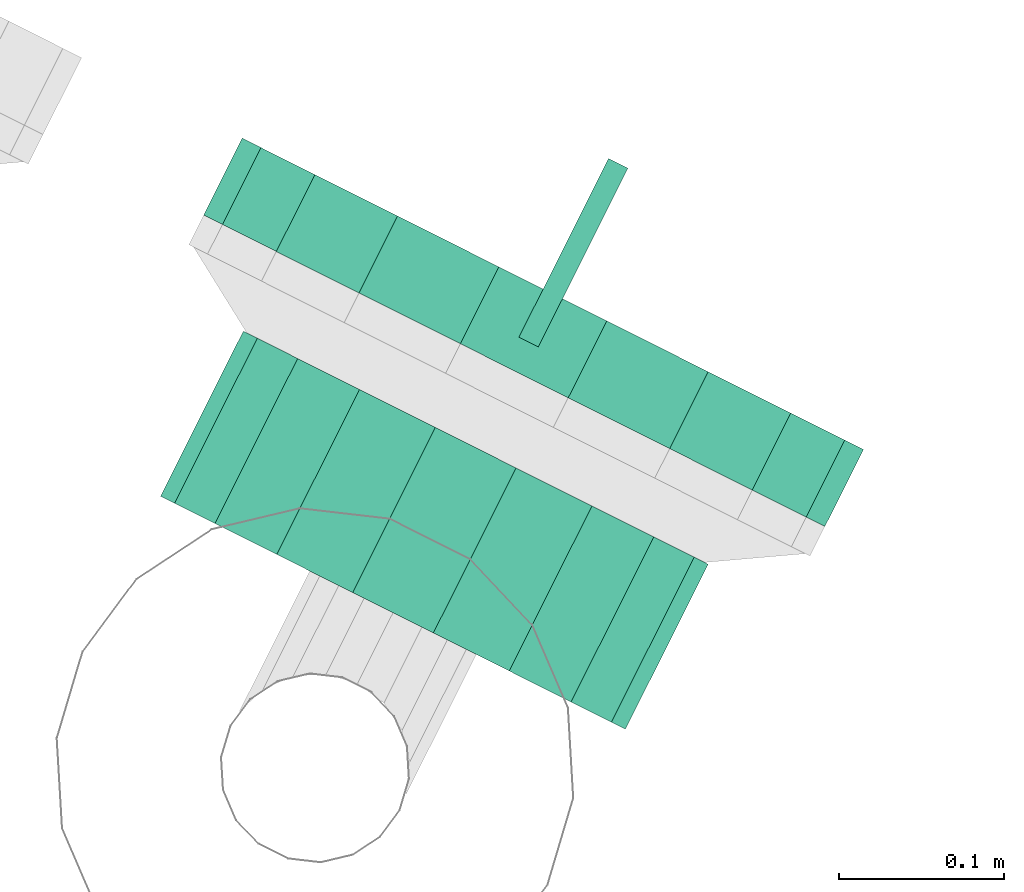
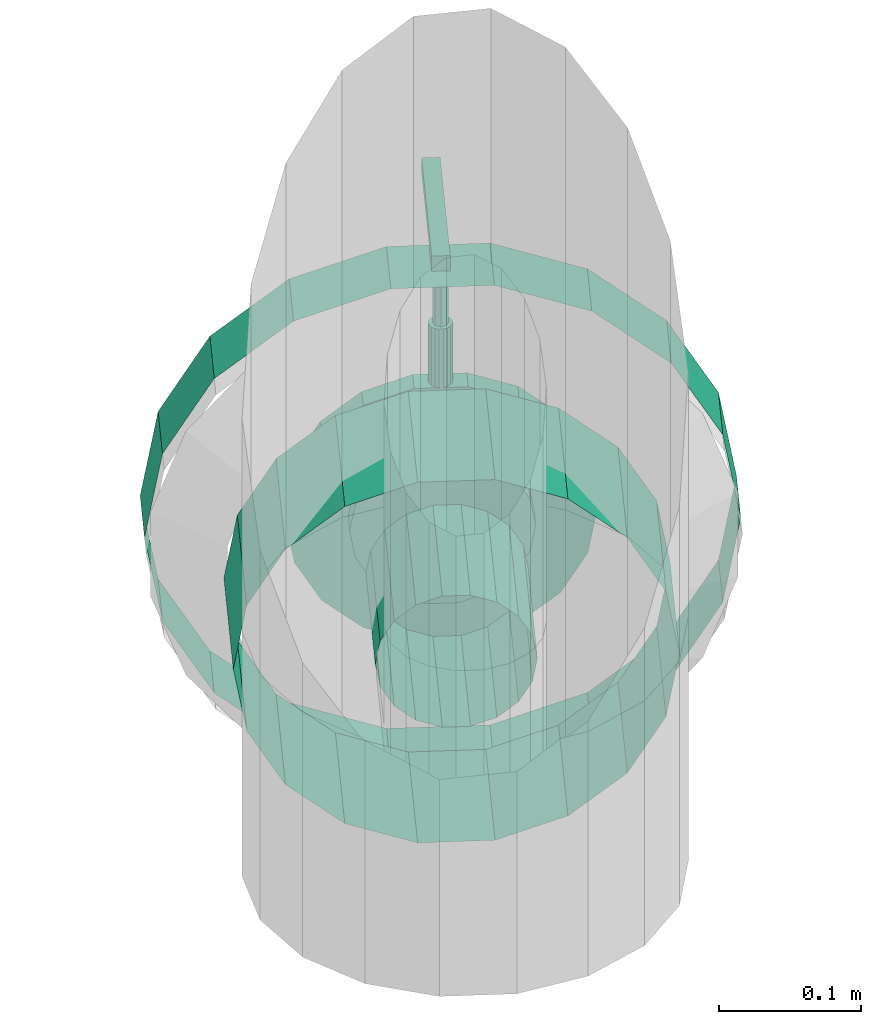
# One storey, part 40 of 206: 1 flow controller, 1 flow segment.
"""IFC2X3 building model written with IfcOpenShell, lengths in metres."""

from ifc_helpers import new_model, si_unit, derived_unit, direction, frame, origin, place, context, subcontext, project, spatial, face_set, surface_model, source, transform, mapped, material, type_object, type_shapes, element, save


model = new_model("IFC2X3")

# Units and contexts
model_context = context("Model", 3, precision=5.2338327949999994e-05, world=origin(), true_north=direction((0.0, 1.0)))
body_context = subcontext(model_context, "Body", "Model", "MODEL_VIEW")
ifc_project = project(units=[si_unit("LENGTHUNIT", "METRE"), si_unit("AREAUNIT", "SQUARE_METRE"), si_unit("VOLUMEUNIT", "CUBIC_METRE"), si_unit("MASSUNIT", "GRAM", prefix="KILO"), si_unit("PLANEANGLEUNIT", "RADIAN"), derived_unit("THERMALTRANSMITTANCEUNIT", [(si_unit("MASSUNIT", "GRAM", prefix="KILO"), 1), (si_unit("THERMODYNAMICTEMPERATUREUNIT", "KELVIN"), -1), (si_unit("TIMEUNIT", "SECOND"), -3)])], contexts=[model_context])

# Site, building, storey
site_placement = place(None, frame((0.0, 0.0, 0.0), z_axis=(0.0, 0.0, 1.0), x_axis=(0.8939966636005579, -0.4480736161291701, 0.0)))
site = spatial("IfcSite", under=ifc_project, at=site_placement, Name="Default", CompositionType="ELEMENT")
building_placement = place(site_placement, origin())
building = spatial("IfcBuilding", under=site, at=building_placement, CompositionType="ELEMENT")
storey_placement = place(building_placement, origin())
storey = spatial("IfcBuildingStorey", under=building, at=storey_placement, Name="Erdgeschoss", CompositionType="ELEMENT", Elevation=0.0)

# Flow controller
ifc_material = material(Name="IfcSurfaceStyle #1741")
distribution_element_type_1 = type_object("IfcDistributionElementType", Name="Zwischenflanschklappe 351737:Zwischenflanschklappe 351737", material=ifc_material)
shared_shape_1 = source(origin(), body_context, "Body", "SurfaceModel", [
    surface_model("IfcFaceBasedSurfaceModel", [(25.630849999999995, 1.0211727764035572, 1.2613106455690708), (25.630849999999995, 0.9003227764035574, 1.2613106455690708), (25.617749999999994, 0.9003227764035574, 1.2613106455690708), (25.617749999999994, 1.0211727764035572, 1.2613106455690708), (25.617749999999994, 0.9003227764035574, 1.2744106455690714), (25.617749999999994, 1.0211727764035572, 1.2744106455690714), (25.630849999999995, 0.9003227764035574, 1.2744106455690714), (25.630849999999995, 1.0211727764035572, 1.2744106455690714), (25.558799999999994, 0.932872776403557, 1.0544106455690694), (25.56275013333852, 0.932872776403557, 1.032008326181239), (25.56275013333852, 0.9155394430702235, 1.032008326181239), (25.558799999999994, 0.9155394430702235, 1.0544106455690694), (25.574124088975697, 0.932872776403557, 1.0123080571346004), (25.574124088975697, 0.9155394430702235, 1.0123080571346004), (25.59154999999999, 0.932872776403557, 0.99768598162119), (25.59154999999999, 0.9155394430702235, 0.99768598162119), (25.61292604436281, 0.932872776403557, 0.9899057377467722), (25.61292604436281, 0.9155394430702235, 0.9899057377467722), (25.63567395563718, 0.932872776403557, 0.9899057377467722), (25.63567395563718, 0.9155394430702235, 0.9899057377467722), (25.657049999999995, 0.932872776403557, 0.9976859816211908), (25.657049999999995, 0.9155394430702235, 0.9976859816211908), (25.674475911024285, 0.932872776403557, 1.0123080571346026), (25.674475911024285, 0.9155394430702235, 1.0123080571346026), (25.685849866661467, 0.932872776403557, 1.032008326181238), (25.685849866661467, 0.9155394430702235, 1.032008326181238), (25.689799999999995, 0.932872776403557, 1.0544106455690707), (25.689799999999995, 0.9155394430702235, 1.0544106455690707), (25.685849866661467, 0.932872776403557, 1.076812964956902), (25.685849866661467, 0.9155394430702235, 1.076812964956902), (25.674475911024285, 0.932872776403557, 1.096513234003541), (25.674475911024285, 0.9155394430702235, 1.096513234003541), (25.657049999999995, 0.932872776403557, 1.1111353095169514), (25.657049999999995, 0.9155394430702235, 1.1111353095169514), (25.63567395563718, 0.932872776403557, 1.1189155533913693), (25.63567395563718, 0.9155394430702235, 1.1189155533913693), (25.61292604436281, 0.932872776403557, 1.1189155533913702), (25.61292604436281, 0.9155394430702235, 1.1189155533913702), (25.59154999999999, 0.932872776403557, 1.1111353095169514), (25.59154999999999, 0.9155394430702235, 1.1111353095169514), (25.574124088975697, 0.932872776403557, 1.0965132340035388), (25.574124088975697, 0.9155394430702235, 1.0965132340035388), (25.56275013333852, 0.932872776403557, 1.076812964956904), (25.56275013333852, 0.9155394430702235, 1.076812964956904), (25.62429999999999, 0.9328727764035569, 1.0544106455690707), (25.62429999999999, 0.9155394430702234, 1.0544106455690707), (25.514299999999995, 0.9155394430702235, 1.0544106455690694), (25.520933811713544, 0.9155394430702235, 1.0167884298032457), (25.520933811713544, 0.8982061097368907, 1.0167884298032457), (25.514299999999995, 0.8982061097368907, 1.0544106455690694), (25.540035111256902, 0.9155394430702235, 0.9837040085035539), (25.540035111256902, 0.8982061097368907, 0.9837040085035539), (25.56929999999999, 0.9155394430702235, 0.9591478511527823), (25.56929999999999, 0.8982061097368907, 0.9591478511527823), (25.60519870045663, 0.9155394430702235, 0.9460817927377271), (25.60519870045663, 0.8982061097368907, 0.9460817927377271), (25.643401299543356, 0.9155394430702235, 0.946081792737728), (25.643401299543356, 0.8982061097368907, 0.946081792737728), (25.679299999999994, 0.9155394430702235, 0.9591478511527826), (25.679299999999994, 0.8982061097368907, 0.9591478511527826), (25.70856488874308, 0.9155394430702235, 0.9837040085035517), (25.70856488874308, 0.8982061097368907, 0.9837040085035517), (25.727666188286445, 0.9155394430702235, 1.016788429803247), (25.727666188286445, 0.8982061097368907, 1.016788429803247), (25.734299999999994, 0.9155394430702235, 1.0544106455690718), (25.734299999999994, 0.8982061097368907, 1.0544106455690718), (25.727666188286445, 0.9155394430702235, 1.092032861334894), (25.727666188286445, 0.8982061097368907, 1.092032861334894), (25.70856488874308, 0.9155394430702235, 1.1251172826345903), (25.70856488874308, 0.8982061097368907, 1.1251172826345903), (25.679299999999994, 0.9155394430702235, 1.14967343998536), (25.679299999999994, 0.8982061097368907, 1.14967343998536), (25.643401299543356, 0.9155394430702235, 1.1627394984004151), (25.643401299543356, 0.8982061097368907, 1.1627394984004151), (25.60519870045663, 0.9155394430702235, 1.1627394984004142), (25.60519870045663, 0.8982061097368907, 1.1627394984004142), (25.56929999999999, 0.9155394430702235, 1.1496734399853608), (25.56929999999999, 0.8982061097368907, 1.1496734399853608), (25.540035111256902, 0.9155394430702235, 1.1251172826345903), (25.540035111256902, 0.8982061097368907, 1.1251172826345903), (25.520933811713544, 0.9155394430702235, 1.092032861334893), (25.520933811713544, 0.8982061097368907, 1.092032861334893), (25.62429999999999, 0.8982061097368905, 1.0544106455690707), (25.558799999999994, 0.8982061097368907, 1.0544106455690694), (25.56275013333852, 0.8982061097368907, 1.032008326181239), (25.56275013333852, 0.8808727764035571, 1.032008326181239), (25.558799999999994, 0.8808727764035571, 1.0544106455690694), (25.574124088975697, 0.8982061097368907, 1.0123080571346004), (25.574124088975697, 0.8808727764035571, 1.0123080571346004), (25.59154999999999, 0.8982061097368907, 0.99768598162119), (25.59154999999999, 0.8808727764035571, 0.99768598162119), (25.61292604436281, 0.8982061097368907, 0.9899057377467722), (25.61292604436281, 0.8808727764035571, 0.9899057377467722), (25.63567395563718, 0.8982061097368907, 0.9899057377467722), (25.63567395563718, 0.8808727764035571, 0.9899057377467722), (25.657049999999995, 0.8982061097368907, 0.9976859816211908), (25.657049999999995, 0.8808727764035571, 0.9976859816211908), (25.674475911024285, 0.8982061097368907, 1.0123080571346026), (25.674475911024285, 0.8808727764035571, 1.0123080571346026), (25.685849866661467, 0.8982061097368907, 1.032008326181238), (25.685849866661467, 0.8808727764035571, 1.032008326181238), (25.689799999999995, 0.8982061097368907, 1.0544106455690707), (25.689799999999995, 0.8808727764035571, 1.0544106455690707), (25.685849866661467, 0.8982061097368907, 1.076812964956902), (25.685849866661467, 0.8808727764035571, 1.076812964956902), (25.674475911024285, 0.8982061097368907, 1.096513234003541), (25.674475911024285, 0.8808727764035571, 1.096513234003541), (25.657049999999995, 0.8982061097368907, 1.1111353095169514), (25.657049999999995, 0.8808727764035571, 1.1111353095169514), (25.63567395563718, 0.8982061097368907, 1.1189155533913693), (25.63567395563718, 0.8808727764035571, 1.1189155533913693), (25.61292604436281, 0.8982061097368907, 1.1189155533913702), (25.61292604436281, 0.8808727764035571, 1.1189155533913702), (25.59154999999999, 0.8982061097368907, 1.1111353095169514), (25.59154999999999, 0.8808727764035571, 1.1111353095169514), (25.574124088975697, 0.8982061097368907, 1.0965132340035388), (25.574124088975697, 0.8808727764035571, 1.0965132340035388), (25.56275013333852, 0.8982061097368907, 1.076812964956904), (25.56275013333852, 0.8808727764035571, 1.076812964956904), (25.62429999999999, 0.880872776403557, 1.0544106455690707), (25.615633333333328, 0.9068727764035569, 1.0544106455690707), (25.616155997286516, 0.9039086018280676, 1.0544106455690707), (25.616155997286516, 0.9039086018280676, 1.212860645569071), (25.615633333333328, 0.9068727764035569, 1.212860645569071), (25.61766094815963, 0.90130195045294, 1.0544106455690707), (25.61766094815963, 0.90130195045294, 1.212860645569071), (25.61996666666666, 0.8993672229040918, 1.0544106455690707), (25.61996666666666, 0.8993672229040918, 1.212860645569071), (25.622795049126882, 0.898337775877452, 1.0544106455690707), (25.622795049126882, 0.898337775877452, 1.212860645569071), (25.625804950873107, 0.8983377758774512, 1.0544106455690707), (25.625804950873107, 0.8983377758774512, 1.212860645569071), (25.628633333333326, 0.8993672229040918, 1.0544106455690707), (25.628633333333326, 0.8993672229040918, 1.212860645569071), (25.630939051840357, 0.9013019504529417, 1.0544106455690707), (25.630939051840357, 0.9013019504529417, 1.212860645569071), (25.63244400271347, 0.9039086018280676, 1.0544106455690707), (25.63244400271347, 0.9039086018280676, 1.212860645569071), (25.63296666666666, 0.9068727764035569, 1.0544106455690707), (25.63296666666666, 0.9068727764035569, 1.212860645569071), (25.63244400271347, 0.9098369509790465, 1.0544106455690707), (25.63244400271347, 0.9098369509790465, 1.212860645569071), (25.630939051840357, 0.9124436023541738, 1.0544106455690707), (25.630939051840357, 0.9124436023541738, 1.212860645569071), (25.628633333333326, 0.9143783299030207, 1.0544106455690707), (25.628633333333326, 0.9143783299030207, 1.212860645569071), (25.625804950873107, 0.9154077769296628, 1.0544106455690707), (25.625804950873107, 0.9154077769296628, 1.212860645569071), (25.622795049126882, 0.9154077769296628, 1.0544106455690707), (25.622795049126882, 0.9154077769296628, 1.212860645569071), (25.61996666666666, 0.9143783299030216, 1.0544106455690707), (25.61996666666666, 0.9143783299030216, 1.212860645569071), (25.61766094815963, 0.9124436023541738, 1.0544106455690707), (25.61766094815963, 0.9124436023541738, 1.212860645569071), (25.616155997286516, 0.9098369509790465, 1.0544106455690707), (25.616155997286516, 0.9098369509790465, 1.212860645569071), (25.62429999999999, 0.9068727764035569, 1.0544106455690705), (25.62429999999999, 0.9068727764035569, 1.212860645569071), (25.618584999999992, 0.9068727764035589, 1.212860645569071), (25.620258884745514, 0.9028316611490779, 1.212860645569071), (25.620258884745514, 0.9028316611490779, 1.2613106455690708), (25.618584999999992, 0.9068727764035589, 1.2613106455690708), (25.62429999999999, 0.901157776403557, 1.212860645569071), (25.62429999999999, 0.901157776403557, 1.2613106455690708), (25.628341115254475, 0.9028316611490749, 1.212860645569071), (25.628341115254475, 0.9028316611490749, 1.2613106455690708), (25.63001499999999, 0.9068727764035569, 1.212860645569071), (25.63001499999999, 0.9068727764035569, 1.2613106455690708), (25.628341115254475, 0.9109138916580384, 1.212860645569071), (25.628341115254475, 0.9109138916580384, 1.2613106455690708), (25.62429999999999, 0.9125877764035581, 1.212860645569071), (25.62429999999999, 0.9125877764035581, 1.2613106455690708), (25.620258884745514, 0.9109138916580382, 1.212860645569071), (25.620258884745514, 0.9109138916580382, 1.2613106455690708), (25.62429999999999, 0.9068727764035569, 1.2613106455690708), (25.414299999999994, 0.932872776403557, 1.0544106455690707), (25.426964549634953, 0.932872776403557, 0.9825864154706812), (25.426964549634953, 0.8808727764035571, 0.9825864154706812), (25.414299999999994, 0.8808727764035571, 1.0544106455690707), (25.46343066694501, 0.932872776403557, 0.9194252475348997), (25.46343066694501, 0.8808727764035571, 0.9194252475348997), (25.519299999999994, 0.932872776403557, 0.8725453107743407), (25.519299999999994, 0.8808727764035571, 0.8725453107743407), (25.587833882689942, 0.932872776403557, 0.8476010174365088), (25.587833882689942, 0.8808727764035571, 0.8476010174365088), (25.66076611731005, 0.932872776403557, 0.8476010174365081), (25.66076611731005, 0.8808727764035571, 0.8476010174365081), (25.729299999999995, 0.932872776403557, 0.872545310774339), (25.729299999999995, 0.8808727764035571, 0.872545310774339), (25.785169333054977, 0.932872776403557, 0.9194252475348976), (25.785169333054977, 0.8808727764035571, 0.9194252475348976), (25.821635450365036, 0.932872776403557, 0.9825864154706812), (25.821635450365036, 0.8808727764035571, 0.9825864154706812), (25.834299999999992, 0.932872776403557, 1.0544106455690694), (25.834299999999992, 0.8808727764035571, 1.0544106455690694), (25.821635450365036, 0.932872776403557, 1.1262348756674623), (25.821635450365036, 0.8808727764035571, 1.1262348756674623), (25.785169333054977, 0.932872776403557, 1.1893960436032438), (25.785169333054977, 0.8808727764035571, 1.1893960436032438), (25.729299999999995, 0.932872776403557, 1.236275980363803), (25.729299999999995, 0.8808727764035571, 1.236275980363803), (25.66076611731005, 0.932872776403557, 1.2612202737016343), (25.66076611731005, 0.8808727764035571, 1.2612202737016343), (25.58783388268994, 0.932872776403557, 1.2612202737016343), (25.58783388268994, 0.8808727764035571, 1.2612202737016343), (25.519299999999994, 0.932872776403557, 1.236275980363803), (25.519299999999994, 0.8808727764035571, 1.236275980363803), (25.46343066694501, 0.932872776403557, 1.1893960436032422), (25.46343066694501, 0.8808727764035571, 1.1893960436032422), (25.426964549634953, 0.932872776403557, 1.126234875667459), (25.426964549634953, 0.8808727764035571, 1.126234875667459)], [face_set([[[0, 1, 2, 3]], [[3, 2, 4, 5]], [[5, 4, 6, 7]], [[7, 6, 1, 0]], [[0, 3, 5, 7]], [[6, 4, 2, 1]], [[8, 9, 10, 11]], [[9, 12, 13, 10]], [[12, 14, 15, 13]], [[14, 16, 17, 15]], [[16, 18, 19, 17]], [[18, 20, 21, 19]], [[20, 22, 23, 21]], [[22, 24, 25, 23]], [[24, 26, 27, 25]], [[26, 28, 29, 27]], [[28, 30, 31, 29]], [[30, 32, 33, 31]], [[32, 34, 35, 33]], [[34, 36, 37, 35]], [[36, 38, 39, 37]], [[38, 40, 41, 39]], [[40, 42, 43, 41]], [[42, 8, 11, 43]], [[44, 9, 8]], [[44, 12, 9]], [[44, 14, 12]], [[44, 16, 14]], [[44, 18, 16]], [[44, 20, 18]], [[44, 22, 20]], [[44, 24, 22]], [[44, 26, 24]], [[44, 28, 26]], [[44, 30, 28]], [[44, 32, 30]], [[44, 34, 32]], [[44, 36, 34]], [[44, 38, 36]], [[44, 40, 38]], [[44, 42, 40]], [[44, 8, 42]], [[45, 43, 11]], [[45, 41, 43]], [[45, 39, 41]], [[45, 37, 39]], [[45, 35, 37]], [[45, 33, 35]], [[45, 31, 33]], [[45, 29, 31]], [[45, 27, 29]], [[45, 25, 27]], [[45, 23, 25]], [[45, 21, 23]], [[45, 19, 21]], [[45, 17, 19]], [[45, 15, 17]], [[45, 13, 15]], [[45, 10, 13]], [[45, 11, 10]], [[46, 47, 48, 49]], [[47, 50, 51, 48]], [[50, 52, 53, 51]], [[52, 54, 55, 53]], [[54, 56, 57, 55]], [[56, 58, 59, 57]], [[58, 60, 61, 59]], [[60, 62, 63, 61]], [[62, 64, 65, 63]], [[64, 66, 67, 65]], [[66, 68, 69, 67]], [[68, 70, 71, 69]], [[70, 72, 73, 71]], [[72, 74, 75, 73]], [[74, 76, 77, 75]], [[76, 78, 79, 77]], [[78, 80, 81, 79]], [[80, 46, 49, 81]], [[45, 47, 46]], [[45, 50, 47]], [[45, 52, 50]], [[45, 54, 52]], [[45, 56, 54]], [[45, 58, 56]], [[45, 60, 58]], [[45, 62, 60]], [[45, 64, 62]], [[45, 66, 64]], [[45, 68, 66]], [[45, 70, 68]], [[45, 72, 70]], [[45, 74, 72]], [[45, 76, 74]], [[45, 78, 76]], [[45, 80, 78]], [[45, 46, 80]], [[82, 81, 49]], [[82, 79, 81]], [[82, 77, 79]], [[82, 75, 77]], [[82, 73, 75]], [[82, 71, 73]], [[82, 69, 71]], [[82, 67, 69]], [[82, 65, 67]], [[82, 63, 65]], [[82, 61, 63]], [[82, 59, 61]], [[82, 57, 59]], [[82, 55, 57]], [[82, 53, 55]], [[82, 51, 53]], [[82, 48, 51]], [[82, 49, 48]], [[83, 84, 85, 86]], [[84, 87, 88, 85]], [[87, 89, 90, 88]], [[89, 91, 92, 90]], [[91, 93, 94, 92]], [[93, 95, 96, 94]], [[95, 97, 98, 96]], [[97, 99, 100, 98]], [[99, 101, 102, 100]], [[101, 103, 104, 102]], [[103, 105, 106, 104]], [[105, 107, 108, 106]], [[107, 109, 110, 108]], [[109, 111, 112, 110]], [[111, 113, 114, 112]], [[113, 115, 116, 114]], [[115, 117, 118, 116]], [[117, 83, 86, 118]], [[82, 84, 83]], [[82, 87, 84]], [[82, 89, 87]], [[82, 91, 89]], [[82, 93, 91]], [[82, 95, 93]], [[82, 97, 95]], [[82, 99, 97]], [[82, 101, 99]], [[82, 103, 101]], [[82, 105, 103]], [[82, 107, 105]], [[82, 109, 107]], [[82, 111, 109]], [[82, 113, 111]], [[82, 115, 113]], [[82, 117, 115]], [[82, 83, 117]], [[119, 118, 86]], [[119, 116, 118]], [[119, 114, 116]], [[119, 112, 114]], [[119, 110, 112]], [[119, 108, 110]], [[119, 106, 108]], [[119, 104, 106]], [[119, 102, 104]], [[119, 100, 102]], [[119, 98, 100]], [[119, 96, 98]], [[119, 94, 96]], [[119, 92, 94]], [[119, 90, 92]], [[119, 88, 90]], [[119, 85, 88]], [[119, 86, 85]], [[120, 121, 122, 123]], [[121, 124, 125, 122]], [[124, 126, 127, 125]], [[126, 128, 129, 127]], [[128, 130, 131, 129]], [[130, 132, 133, 131]], [[132, 134, 135, 133]], [[134, 136, 137, 135]], [[136, 138, 139, 137]], [[138, 140, 141, 139]], [[140, 142, 143, 141]], [[142, 144, 145, 143]], [[144, 146, 147, 145]], [[146, 148, 149, 147]], [[148, 150, 151, 149]], [[150, 152, 153, 151]], [[152, 154, 155, 153]], [[154, 120, 123, 155]], [[156, 121, 120]], [[156, 124, 121]], [[156, 126, 124]], [[156, 128, 126]], [[156, 130, 128]], [[156, 132, 130]], [[156, 134, 132]], [[156, 136, 134]], [[156, 138, 136]], [[156, 140, 138]], [[156, 142, 140]], [[156, 144, 142]], [[156, 146, 144]], [[156, 148, 146]], [[156, 150, 148]], [[156, 152, 150]], [[156, 154, 152]], [[156, 120, 154]], [[157, 155, 123]], [[157, 153, 155]], [[157, 151, 153]], [[157, 149, 151]], [[157, 147, 149]], [[157, 145, 147]], [[157, 143, 145]], [[157, 141, 143]], [[157, 139, 141]], [[157, 137, 139]], [[157, 135, 137]], [[157, 133, 135]], [[157, 131, 133]], [[157, 129, 131]], [[157, 127, 129]], [[157, 125, 127]], [[157, 122, 125]], [[157, 123, 122]], [[158, 159, 160, 161]], [[159, 162, 163, 160]], [[162, 164, 165, 163]], [[164, 166, 167, 165]], [[166, 168, 169, 167]], [[168, 170, 171, 169]], [[170, 172, 173, 171]], [[172, 158, 161, 173]], [[174, 173, 161]], [[174, 171, 173]], [[174, 169, 171]], [[174, 167, 169]], [[174, 165, 167]], [[174, 163, 165]], [[174, 160, 163]], [[174, 161, 160]], [[175, 176, 177, 178]], [[176, 179, 180, 177]], [[179, 181, 182, 180]], [[181, 183, 184, 182]], [[183, 185, 186, 184]], [[185, 187, 188, 186]], [[187, 189, 190, 188]], [[189, 191, 192, 190]], [[191, 193, 194, 192]], [[193, 195, 196, 194]], [[195, 197, 198, 196]], [[197, 199, 200, 198]], [[199, 201, 202, 200]], [[201, 203, 204, 202]], [[203, 205, 206, 204]], [[205, 207, 208, 206]], [[207, 209, 210, 208]], [[209, 175, 178, 210]]])]),
])
type_shapes(distribution_element_type_1, [shared_shape_1])
flow_controller_placement = place(storey_placement, origin())
element("IfcFlowController", 1, at=flow_controller_placement, inside=storey, type_object=distribution_element_type_1, material=ifc_material, Name="Zwischenflanschklappe", ObjectType="Zwischenflanschklappe", context=body_context, shape_type="MappedRepresentation", body=[
    mapped(shared_shape_1, transform((0.0, 0.0, 0.0), scale=1.0)),
])

# Flow segment
distribution_element_type_2 = type_object("IfcDistributionElementType", Name="Stahlrohr nach DIN 2448 351760:Stahlrohr nach DIN 2448 351760", material=ifc_material)
shared_shape_2 = source(origin(), body_context, "Body", "SurfaceModel", [
    surface_model("IfcFaceBasedSurfaceModel", [(25.567149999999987, 0.717299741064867, 1.0544106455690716), (25.57059656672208, 0.717299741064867, 1.073957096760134), (25.57059656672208, 0.8288727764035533, 1.073957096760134), (25.567149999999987, 0.8288727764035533, 1.0544106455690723), (25.580520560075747, 0.717299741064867, 1.0911459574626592), (25.580520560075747, 0.8288727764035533, 1.0911459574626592), (25.595724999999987, 0.717299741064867, 1.103903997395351), (25.595724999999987, 0.8288727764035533, 1.103903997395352), (25.614376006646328, 0.717299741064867, 1.11069240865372), (25.614376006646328, 0.8288727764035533, 1.11069240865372), (25.634223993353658, 0.717299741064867, 1.1106924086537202), (25.634223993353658, 0.8288727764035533, 1.1106924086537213), (25.652874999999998, 0.717299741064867, 1.103903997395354), (25.65287499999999, 0.8288727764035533, 1.1039039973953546), (25.66807943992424, 0.717299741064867, 1.0911459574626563), (25.668079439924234, 0.8288727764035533, 1.0911459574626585), (25.678003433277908, 0.717299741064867, 1.0739570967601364), (25.678003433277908, 0.8288727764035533, 1.0739570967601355), (25.681449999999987, 0.717299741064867, 1.054410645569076), (25.681449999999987, 0.8288727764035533, 1.054410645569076), (25.678003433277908, 0.717299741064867, 1.0348641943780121), (25.678003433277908, 0.8288727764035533, 1.0348641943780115), (25.66807943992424, 0.717299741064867, 1.0176753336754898), (25.66807943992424, 0.8288727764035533, 1.017675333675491), (25.652874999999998, 0.717299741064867, 1.0049172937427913), (25.65287499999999, 0.8288727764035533, 1.004917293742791), (25.634223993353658, 0.717299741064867, 0.9981288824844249), (25.634223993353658, 0.8288727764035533, 0.9981288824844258), (25.614376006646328, 0.717299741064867, 0.9981288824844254), (25.61437600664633, 0.8288727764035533, 0.9981288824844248), (25.595724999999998, 0.717299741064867, 1.0049172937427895), (25.595724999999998, 0.8288727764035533, 1.0049172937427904), (25.580520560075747, 0.717299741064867, 1.0176753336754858), (25.580520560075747, 0.8288727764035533, 1.0176753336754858), (25.57059656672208, 0.717299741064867, 1.0348641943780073), (25.57059656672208, 0.8288727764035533, 1.0348641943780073), (25.467149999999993, 0.717299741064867, 1.0544106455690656), (25.476627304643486, 0.717299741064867, 1.108159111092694), (25.476627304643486, 0.8288727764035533, 1.108159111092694), (25.467149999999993, 0.8288727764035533, 1.0544106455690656), (25.503916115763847, 0.717299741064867, 1.1554247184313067), (25.503916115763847, 0.8288727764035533, 1.1554247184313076), (25.545724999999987, 0.717299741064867, 1.1905065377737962), (25.545724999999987, 0.8288727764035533, 1.1905065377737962), (25.59701118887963, 0.717299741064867, 1.2091731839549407), (25.59701118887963, 0.8288727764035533, 1.2091731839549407), (25.651588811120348, 0.717299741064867, 1.2091731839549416), (25.651588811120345, 0.8288727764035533, 1.2091731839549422), (25.702874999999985, 0.717299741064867, 1.1905065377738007), (25.702874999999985, 0.8288727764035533, 1.1905065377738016), (25.74468388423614, 0.717299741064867, 1.155424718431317), (25.74468388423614, 0.8288727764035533, 1.155424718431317), (25.771972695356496, 0.717299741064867, 1.1081591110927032), (25.771972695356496, 0.8288727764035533, 1.1081591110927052), (25.781449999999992, 0.717299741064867, 1.054410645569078), (25.781449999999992, 0.8288727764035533, 1.0544106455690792), (25.7719726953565, 0.717299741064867, 1.0006621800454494), (25.7719726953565, 0.8288727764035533, 1.0006621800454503), (25.744683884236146, 0.717299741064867, 0.9533965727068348), (25.744683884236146, 0.8288727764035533, 0.9533965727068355), (25.702875, 0.717299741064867, 0.9183147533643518), (25.702875, 0.8288727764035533, 0.9183147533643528), (25.651588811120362, 0.717299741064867, 0.8996481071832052), (25.65158881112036, 0.8288727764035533, 0.8996481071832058), (25.597011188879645, 0.717299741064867, 0.8996481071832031), (25.597011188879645, 0.8288727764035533, 0.8996481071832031), (25.545725, 0.717299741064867, 0.9183147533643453), (25.545725, 0.8288727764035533, 0.9183147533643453), (25.50391611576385, 0.717299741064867, 0.9533965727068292), (25.503916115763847, 0.8288727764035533, 0.9533965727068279), (25.47662730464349, 0.717299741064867, 1.0006621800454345), (25.47662730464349, 0.8288727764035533, 1.0006621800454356)], [face_set([[[0, 1, 2, 3]], [[1, 4, 5, 2]], [[4, 6, 7, 5]], [[6, 8, 9, 7]], [[8, 10, 11, 9]], [[10, 12, 13, 11]], [[12, 14, 15, 13]], [[14, 16, 17, 15]], [[16, 18, 19, 17]], [[18, 20, 21, 19]], [[20, 22, 23, 21]], [[22, 24, 25, 23]], [[24, 26, 27, 25]], [[26, 28, 29, 27]], [[28, 30, 31, 29]], [[30, 32, 33, 31]], [[32, 34, 35, 33]], [[34, 0, 3, 35]], [[36, 37, 38, 39]], [[37, 40, 41, 38]], [[40, 42, 43, 41]], [[42, 44, 45, 43]], [[44, 46, 47, 45]], [[46, 48, 49, 47]], [[48, 50, 51, 49]], [[50, 52, 53, 51]], [[52, 54, 55, 53]], [[54, 56, 57, 55]], [[56, 58, 59, 57]], [[58, 60, 61, 59]], [[60, 62, 63, 61]], [[62, 64, 65, 63]], [[64, 66, 67, 65]], [[66, 68, 69, 67]], [[68, 70, 71, 69]], [[70, 36, 39, 71]]])]),
])
type_shapes(distribution_element_type_2, [shared_shape_2])
flow_segment_placement = place(storey_placement, origin())
element("IfcFlowSegment", 2, at=flow_segment_placement, inside=storey, type_object=distribution_element_type_2, material=ifc_material, Name="Stahlrohr nach DIN 2448", ObjectType="Stahlrohr nach DIN 2448", context=body_context, shape_type="MappedRepresentation", body=[
    mapped(shared_shape_2, transform((0.0, 0.0, 0.0), scale=1.0)),
])

save(model, "model.ifc")
